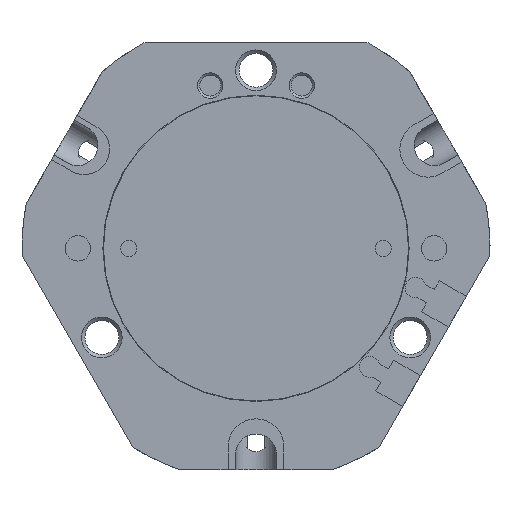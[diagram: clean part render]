
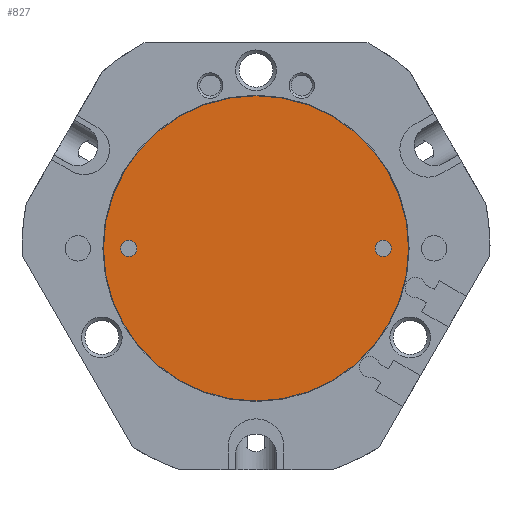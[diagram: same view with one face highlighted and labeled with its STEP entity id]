
A CAD part, front view. The second image highlights one B-rep face of the part: STEP entity #827.
In plain terms, the highlighted planar face has unit normal (0, -1, 0).
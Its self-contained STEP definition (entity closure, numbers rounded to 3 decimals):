
#827 = ADVANCED_FACE( '', ( #1731, #1732, #1733 ), #1734, .F. );
#1731 = FACE_BOUND( '', #2683, .T. );
#1732 = FACE_OUTER_BOUND( '', #2684, .T. );
#1733 = FACE_BOUND( '', #2685, .T. );
#1734 = PLANE( '', #2686 );
#2683 = EDGE_LOOP( '', ( #4738 ) );
#2684 = EDGE_LOOP( '', ( #4739 ) );
#2685 = EDGE_LOOP( '', ( #4740 ) );
#2686 = AXIS2_PLACEMENT_3D( '', #4741, #4742, #4743 );
#4738 = ORIENTED_EDGE( '', *, *, #6090, .F. );
#4739 = ORIENTED_EDGE( '', *, *, #6091, .F. );
#4740 = ORIENTED_EDGE( '', *, *, #5423, .F. );
#4741 = CARTESIAN_POINT( '', ( 0., 0., 0. ) );
#4742 = DIRECTION( '', ( 0., 1., 0. ) );
#4743 = DIRECTION( '', ( 0., 0., 1. ) );
#5423 = EDGE_CURVE( '', #6469, #6469, #6470, .T. );
#6090 = EDGE_CURVE( '', #7455, #7455, #7456, .T. );
#6091 = EDGE_CURVE( '', #7457, #7457, #7458, .T. );
#6469 = VERTEX_POINT( '', #7970 );
#6470 = CIRCLE( '', #7971, 1.6 );
#7455 = VERTEX_POINT( '', #9446 );
#7456 = CIRCLE( '', #9447, 1.6 );
#7457 = VERTEX_POINT( '', #9448 );
#7458 = CIRCLE( '', #9449, 30. );
#7970 = CARTESIAN_POINT( '', ( -25., 0., -1.6 ) );
#7971 = AXIS2_PLACEMENT_3D( '', #9777, #9778, #9779 );
#9446 = CARTESIAN_POINT( '', ( 25., 0., -1.6 ) );
#9447 = AXIS2_PLACEMENT_3D( '', #10510, #10511, #10512 );
#9448 = CARTESIAN_POINT( '', ( 30., 0., 0. ) );
#9449 = AXIS2_PLACEMENT_3D( '', #10513, #10514, #10515 );
#9777 = CARTESIAN_POINT( '', ( -25., 0., 0. ) );
#9778 = DIRECTION( '', ( 0., -1., 0. ) );
#9779 = DIRECTION( '', ( 0., 0., -1. ) );
#10510 = CARTESIAN_POINT( '', ( 25., 0., 0. ) );
#10511 = DIRECTION( '', ( 0., -1., 0. ) );
#10512 = DIRECTION( '', ( 0., 0., -1. ) );
#10513 = CARTESIAN_POINT( '', ( 0., 0., 0. ) );
#10514 = DIRECTION( '', ( 0., 1., 0. ) );
#10515 = DIRECTION( '', ( 1., 0., 0. ) );
